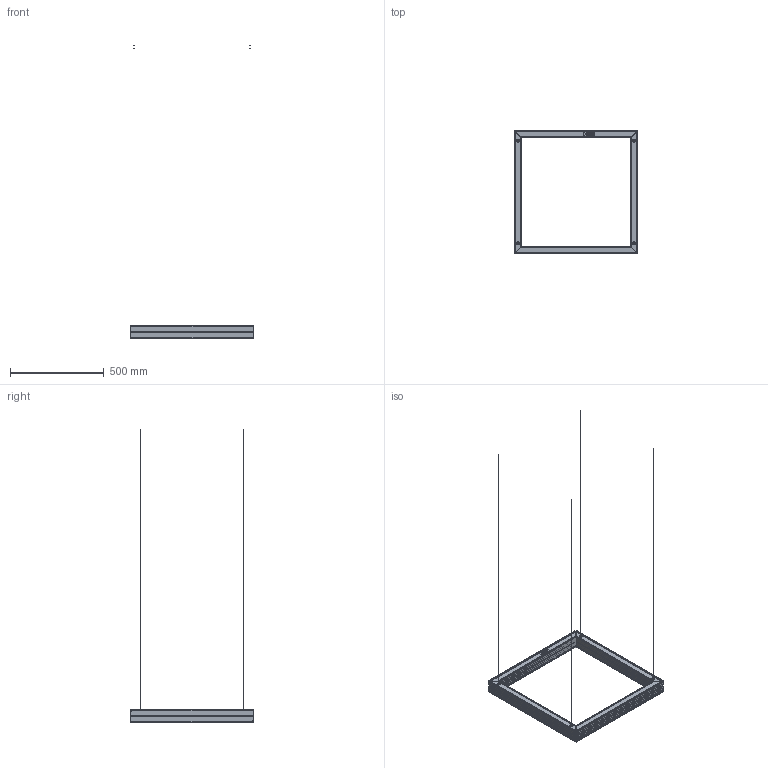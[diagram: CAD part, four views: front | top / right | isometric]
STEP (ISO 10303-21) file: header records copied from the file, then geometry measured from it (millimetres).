
FILE_DESCRIPTION(/* description */ ('Unknown'),/* implementation_level */ '2;1');
FILE_NAME(/* name */ 'TOUR QV 25.9',/* time_stamp */ '2023-01-24T08:51:01-05:00',/* author */ ('Unknown'),/* organization */ ('Unknown'),/* preprocessor_version */ 'ST-DEVELOPER v18.1',/* originating_system */ 'Solid Edge',/* authorisation */ 'Unknown');
FILE_SCHEMA (('AUTOMOTIVE_DESIGN {1 0 10303 214 3 1 1}'));
Length unit declared in the file: millimetre
Products named in the file (1): TOUR QV 25.9
Bounding box: 656 x 656 x 1564.1 mm (x, y, z)
Volume: 2151868.4 mm3; surface area: 1765549.7 mm2
Topology: 21 solids, 21 shells, 1628 faces, 4724 edges, 3150 vertices
Faces by surface type: plane 946, cylinder 670, bspline 12
Full cylindrical faces by diameter (mm): 2.3 x4, 3 x4, 3.5 x2, 15 x4
Entity records: 54604 total; most frequent: CARTESIAN_POINT 10457, ORIENTED_EDGE 9408, DIRECTION 9150, EDGE_CURVE 4704, LINE 3268, VECTOR 3268, VERTEX_POINT 3148, AXIS2_PLACEMENT_3D 2941
